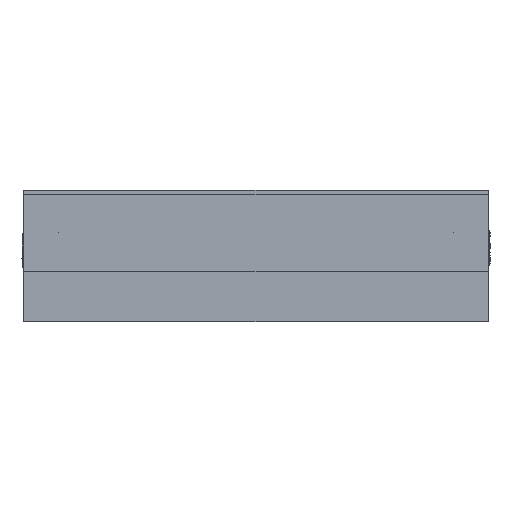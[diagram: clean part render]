
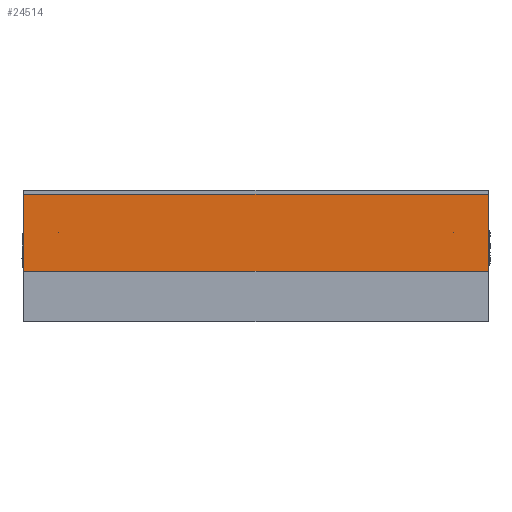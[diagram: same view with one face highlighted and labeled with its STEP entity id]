
A CAD part, front view. The second image highlights one B-rep face of the part: STEP entity #24514.
In plain terms, the highlighted planar face has unit normal (0, -1, 0) as drawn and (0, 1, 0) by its records, which use the part's own axes.
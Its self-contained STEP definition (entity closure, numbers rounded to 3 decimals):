
#160 = DIRECTION ( 'NONE',  ( -1., 0., 0. ) ) ;
#467 = ORIENTED_EDGE ( 'NONE', *, *, #4632, .T. ) ;
#2209 = ORIENTED_EDGE ( 'NONE', *, *, #24497, .T. ) ;
#2358 = CARTESIAN_POINT ( 'NONE',  ( 0., 7.5, -5. ) ) ;
#2931 = CARTESIAN_POINT ( 'NONE',  ( 30., 7.5, 5. ) ) ;
#3537 = EDGE_CURVE ( 'NONE', #20864, #6261, #22348, .T. ) ;
#3754 = VECTOR ( 'NONE', #8500, 1000. ) ;
#3784 = DIRECTION ( 'NONE',  ( 0., 0., 1. ) ) ;
#4033 = CARTESIAN_POINT ( 'NONE',  ( -30., 7.5, 5. ) ) ;
#4439 = CARTESIAN_POINT ( 'NONE',  ( -30., 7.5, 5. ) ) ;
#4632 = EDGE_CURVE ( 'NONE', #24446, #21775, #9344, .T. ) ;
#6014 = LINE ( 'NONE', #2358, #3754 ) ;
#6261 = VERTEX_POINT ( 'NONE', #19853 ) ;
#6599 = CARTESIAN_POINT ( 'NONE',  ( 30., 7.5, 5. ) ) ;
#8500 = DIRECTION ( 'NONE',  ( -1., 0., 0. ) ) ;
#8682 = PLANE ( 'NONE',  #9575 ) ;
#8953 = DIRECTION ( 'NONE',  ( 0., 0., -1. ) ) ;
#9343 = EDGE_CURVE ( 'NONE', #24446, #6261, #14685, .T. ) ;
#9344 = LINE ( 'NONE', #2931, #16779 ) ;
#9575 = AXIS2_PLACEMENT_3D ( 'NONE', #4439, #21316, #8953 ) ;
#10215 = FACE_OUTER_BOUND ( 'NONE', #17291, .T. ) ;
#11026 = ORIENTED_EDGE ( 'NONE', *, *, #3537, .T. ) ;
#14685 = LINE ( 'NONE', #4033, #25369 ) ;
#16779 = VECTOR ( 'NONE', #21728, 1000. ) ;
#17291 = EDGE_LOOP ( 'NONE', ( #11026, #19975, #467, #2209 ) ) ;
#17398 = CARTESIAN_POINT ( 'NONE',  ( 30., 7.5, -5. ) ) ;
#18061 = CARTESIAN_POINT ( 'NONE',  ( -30., 7.5, 5. ) ) ;
#18221 = CARTESIAN_POINT ( 'NONE',  ( -30., 7.5, -5. ) ) ;
#19853 = CARTESIAN_POINT ( 'NONE',  ( -30., 7.5, 5. ) ) ;
#19975 = ORIENTED_EDGE ( 'NONE', *, *, #9343, .F. ) ;
#20096 = VECTOR ( 'NONE', #3784, 1000. ) ;
#20864 = VERTEX_POINT ( 'NONE', #18221 ) ;
#21316 = DIRECTION ( 'NONE',  ( 0., -1., 0. ) ) ;
#21728 = DIRECTION ( 'NONE',  ( 0., 0., -1. ) ) ;
#21775 = VERTEX_POINT ( 'NONE', #17398 ) ;
#22348 = LINE ( 'NONE', #18061, #20096 ) ;
#24446 = VERTEX_POINT ( 'NONE', #6599 ) ;
#24497 = EDGE_CURVE ( 'NONE', #21775, #20864, #6014, .T. ) ;
#24514 = ADVANCED_FACE ( 'NONE', ( #10215 ), #8682, .F. ) ;
#25369 = VECTOR ( 'NONE', #160, 1000. ) ;
